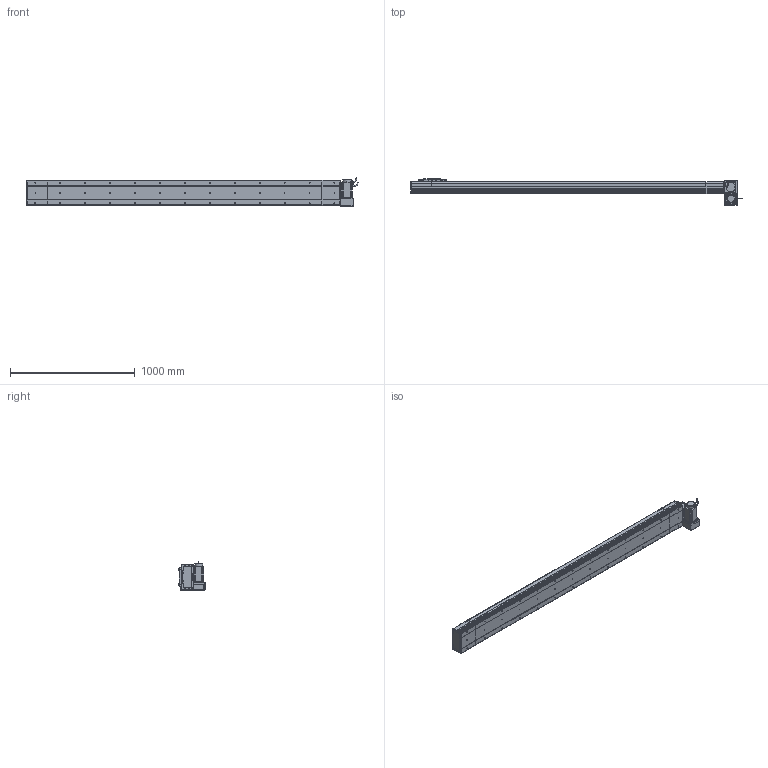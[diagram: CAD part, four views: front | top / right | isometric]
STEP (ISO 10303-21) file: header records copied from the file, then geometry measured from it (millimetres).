
FILE_DESCRIPTION (( 'STEP AP214' ), '1' );
FILE_NAME ('D20 CBH RU S2200.STEP', '2010-06-30T10:02:23', ( 'Conseil Régional Haute-Normandie' ), ( 'Conseil Régional Haute-Normandie' ), 'SwSTEP 2.0', 'SolidWorks 2010', '' );
FILE_SCHEMA (( 'AUTOMOTIVE_DESIGN' ));
Length unit declared in the file: millimetre
Products named in the file (31): Glissiere_Default; Plaque de Bout Head D20 RU_Default; Couvercle RU_Default; Corp Tail D20 RU_Default; Chariot D20_Default; Support Chariot D20_Default; Plaque De Serrage D20 RU_Default; Couvercle S2200_Default; Corp S2200_Default; Cache Support Moteur RU_Default; Moteur motionking 90BLDC125A-640; Rondelle Cache D20 RU_Default; avant 90BLDC125A-640; vis M5 L30_Default; Conecteur_Default; vis M5 L47_Default; ecrou_Default; Corp D20 S2200_Default; Conecteur2_Default; codeur 90BLDC125-640; corps 90BLDC125A-640; vis M5 L15_Default; Plaque De Serrage D20_Default; Corp Tail D20_Default; Plaque de Bout Tail D20_Default; Couvercle_Default; Tail D20_Default; Support moteur RU_Default; Head RU_Default; D20 CBH RU S2200
Assembly tree (66 placements, depth 4):
  D20 CBH RU S2200
    Tail D20_Default
      vis M5 L15_Default  x6
      Couvercle_Default
      Corp Tail D20_Default
      Plaque De Serrage D20_Default
      Plaque de Bout Tail D20_Default
    Corp D20 S2200_Default
      Corp S2200_Default
      Couvercle S2200_Default
    Head RU_Default
      vis M5 L47_Default  x4
      vis M5 L15_Default  x12
      Corp Tail D20 RU_Default
      vis M5 L30_Default  x4
      ecrou_Default  x4
      Plaque de Bout Head D20 RU_Default
      Rondelle Cache D20 RU_Default  x3
      Couvercle RU_Default
      Moteur motionking 90BLDC125A-640
        Conecteur_Default
        Conecteur2_Default
        corps 90BLDC125A-640
        avant 90BLDC125A-640
        codeur 90BLDC125-640
      Cache Support Moteur RU_Default
      Support moteur RU_Default
      Plaque De Serrage D20 RU_Default
    Chariot D20_Default
      vis M5 L15_Default  x8
      Chariot D20_Default
      Support Chariot D20_Default
      Glissiere_Default
Bounding box: 2664.45 x 209 x 229.7 mm (x, y, z)
Volume: 18187376.7 mm3; surface area: 3539884.5 mm2
Topology: 103 solids, 103 shells, 3778 faces, 9416 edges, 6118 vertices
Faces by surface type: plane 2099, bspline 806, cylinder 710, torus 91, cone 68, sphere 4
Entity records: 159646 total; most frequent: CARTESIAN_POINT 82350, ORIENTED_EDGE 15300, DIRECTION 11658, EDGE_CURVE 7650, VERTEX_POINT 5062, LINE 4942, VECTOR 4942, AXIS2_PLACEMENT_3D 3358
